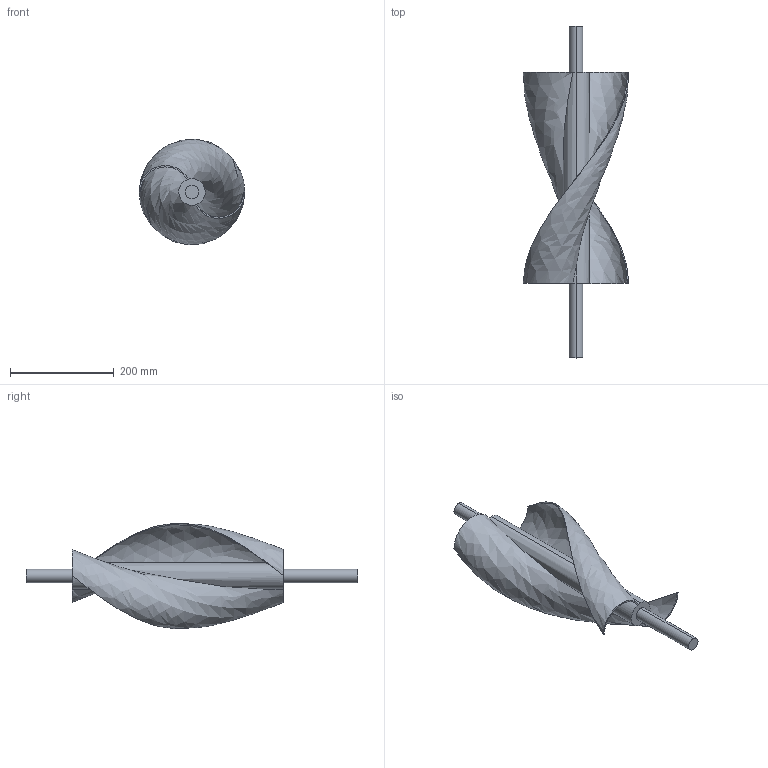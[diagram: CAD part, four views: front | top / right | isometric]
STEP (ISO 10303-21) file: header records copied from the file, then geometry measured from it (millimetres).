
FILE_DESCRIPTION (( 'STEP AP214' ), '1' );
FILE_NAME ('Helical-Savonius VAWT.STEP', '2022-08-11T05:27:38', ( '' ), ( '' ), 'SwSTEP 2.0', 'SolidWorks 2022', '' );
FILE_SCHEMA (( 'AUTOMOTIVE_DESIGN' ));
Length unit declared in the file: inch
Products named in the file (1): Helical-Savonius VAWT
Bounding box: 203.19 x 638.67 x 202.6 mm (x, y, z)
Volume: 1208944.3 mm3; surface area: 309186.9 mm2
Topology: 1 solids, 1 shells, 20 faces, 48 edges, 32 vertices
Faces by surface type: cylinder 10, bspline 6, plane 4
Entity records: 2496 total; most frequent: CARTESIAN_POINT 2041, ORIENTED_EDGE 96, DIRECTION 80, EDGE_CURVE 48, AXIS2_PLACEMENT_3D 35, VERTEX_POINT 32, EDGE_LOOP 22, CIRCLE 20
